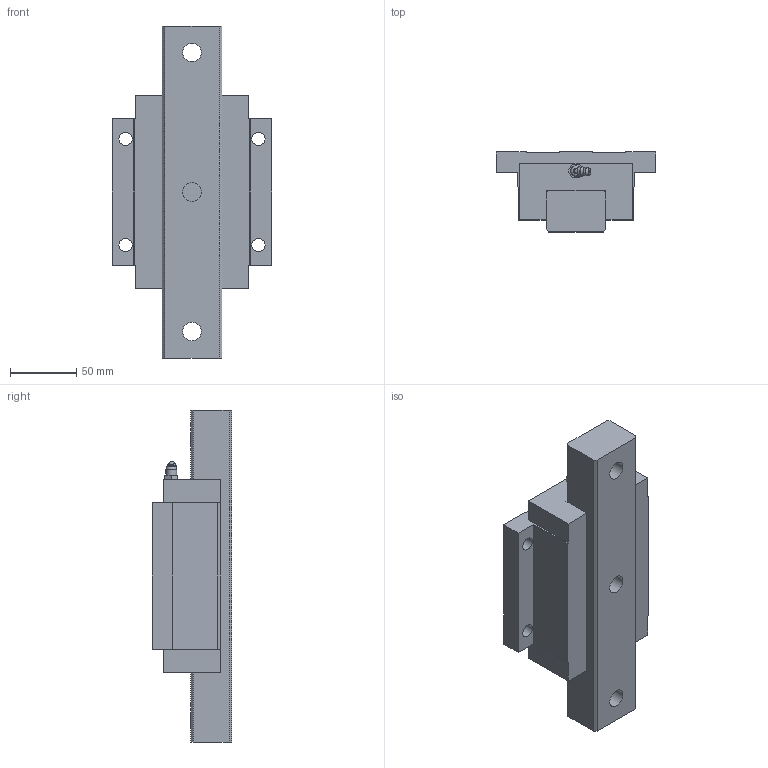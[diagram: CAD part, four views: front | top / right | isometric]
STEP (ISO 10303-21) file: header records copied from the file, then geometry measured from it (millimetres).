
FILE_DESCRIPTION((''),'2;1');
FILE_NAME('D:\製品 (図面)\カタログ用3D\変換ファイル\OZAK_3D-CAD(STEP形式)\Part2.-Linear Guides_ﾘﾆｱｶﾞｲﾄﾞ\07_Eco Guides_ｴｺｶﾞｲﾄﾞ\EGH-F\EGH45F.stp','2010-12-22T11:15:38',('Tsuchiya'),(''),'Autodesk Inventor 10','Autodesk Inventor 10','');
FILE_SCHEMA(('AUTOMOTIVE_DESIGN { 1 0 10303 214 1 1 1 1 }'));
Length unit declared in the file: millimetre
Products named in the file (3): EGH45F; EGH45F1; EGH45F2
Assembly tree (2 placements, depth 2):
  EGH45F
    EGH45F1
    EGH45F2
Bounding box: 120 x 60 x 250 mm (x, y, z)
Volume: 844117.7 mm3; surface area: 107651.3 mm2
Topology: 3 solids, 3 shells, 84 faces, 208 edges, 139 vertices
Faces by surface type: plane 59, cylinder 15, bspline 4, cone 4, torus 1, sphere 1
Full cylindrical faces by diameter (mm): 7.75 x1, 8 x3, 10 x4, 14 x3, 20 x3
Entity records: 2597 total; most frequent: CARTESIAN_POINT 596, DIRECTION 386, ORIENTED_EDGE 366, EDGE_CURVE 183, VERTEX_POINT 134, VECTOR 132, LINE 132, AXIS2_PLACEMENT_3D 127
